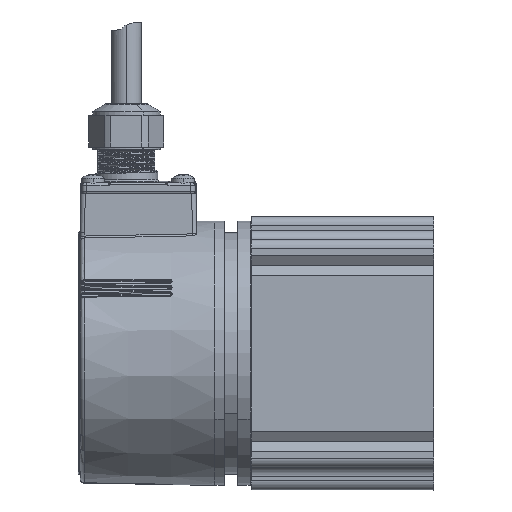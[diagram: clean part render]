
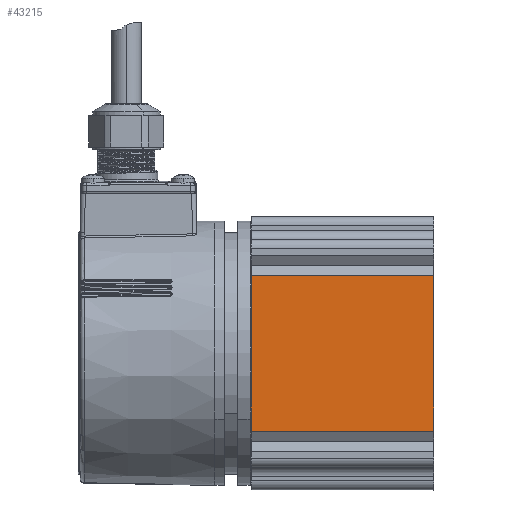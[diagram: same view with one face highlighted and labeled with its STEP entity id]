
A CAD part, front view. The second image highlights one B-rep face of the part: STEP entity #43215.
In plain terms, the highlighted planar face has unit normal (0, -1, 0).
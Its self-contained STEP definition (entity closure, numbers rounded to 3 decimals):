
#39914=DIRECTION('',(1.,0.,0.));
#39915=VECTOR('',#39914,34.172);
#39916=CARTESIAN_POINT('',(-17.086,-30.,0.));
#39917=LINE('',#39916,#39915);
#40769=DIRECTION('',(1.,0.,0.));
#40770=VECTOR('',#40769,34.172);
#40771=CARTESIAN_POINT('',(-17.086,-30.,40.));
#40772=LINE('',#40771,#40770);
#41131=DIRECTION('',(0.,0.,1.));
#41132=VECTOR('',#41131,40.);
#41133=CARTESIAN_POINT('',(-17.086,-30.,0.));
#41134=LINE('',#41133,#41132);
#41138=DIRECTION('',(0.,0.,1.));
#41139=VECTOR('',#41138,40.);
#41140=CARTESIAN_POINT('',(17.086,-30.,0.));
#41141=LINE('',#41140,#41139);
#42161=CARTESIAN_POINT('',(-17.086,-30.,0.));
#42162=VERTEX_POINT('',#42161);
#42163=CARTESIAN_POINT('',(17.086,-30.,0.));
#42164=VERTEX_POINT('',#42163);
#42293=CARTESIAN_POINT('',(-17.086,-30.,40.));
#42294=VERTEX_POINT('',#42293);
#42295=CARTESIAN_POINT('',(17.086,-30.,40.));
#42296=VERTEX_POINT('',#42295);
#43203=CARTESIAN_POINT('',(-17.086,-30.,0.));
#43204=DIRECTION('',(0.,-1.,0.));
#43205=DIRECTION('',(1.,0.,0.));
#43206=AXIS2_PLACEMENT_3D('',#43203,#43204,#43205);
#43207=PLANE('',#43206);
#43208=ORIENTED_EDGE('',*,*,#42573,.F.);
#43209=ORIENTED_EDGE('',*,*,#43198,.T.);
#43210=ORIENTED_EDGE('',*,*,#42833,.T.);
#43212=ORIENTED_EDGE('',*,*,#43211,.F.);
#43213=EDGE_LOOP('',(#43208,#43209,#43210,#43212));
#43214=FACE_OUTER_BOUND('',#43213,.F.);
#42573=EDGE_CURVE('',#42162,#42164,#39917,.T.);
#42833=EDGE_CURVE('',#42294,#42296,#40772,.T.);
#43198=EDGE_CURVE('',#42162,#42294,#41134,.T.);
#43211=EDGE_CURVE('',#42164,#42296,#41141,.T.);
#43215=ADVANCED_FACE('',(#43214),#43207,.T.);
